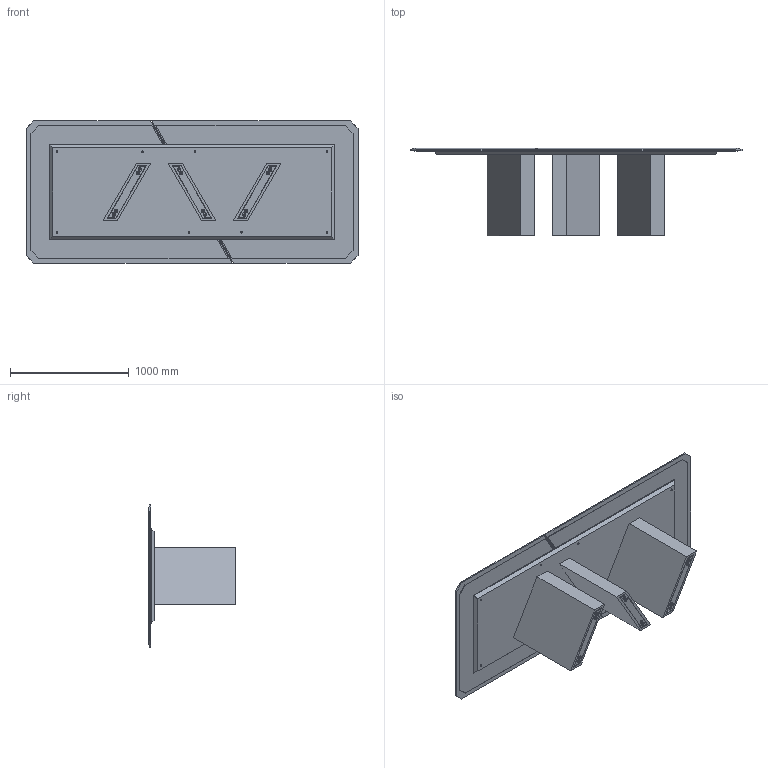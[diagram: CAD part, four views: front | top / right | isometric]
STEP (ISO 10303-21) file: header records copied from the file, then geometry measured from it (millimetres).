
FILE_DESCRIPTION (( 'STEP AP214' ), '1' );
FILE_NAME ('PlatiumClass_280 x120.STEP', '2026-05-05T09:30:54', ( '' ), ( '' ), 'SwSTEP 2.0', 'SolidWorks 2025', '' );
FILE_SCHEMA (( 'AUTOMOTIVE_DESIGN' ));
Length unit declared in the file: millimetre
Products named in the file (12): PlatinumClass_ASSIEME_GAMBA_UNICO_MARMO; PlatiumClass_DISTANZIALE_TAVOLO_Piatto_Metallo_Piano_120_xD; PlatiumClass_RIVESTIMENTO_UNICO_GAMBA_MARMO; PlatiumClass_PIANO_(260 280 300) x (120 e 140)_Buratti_TAVOLO_280 x 120 OPZ40; PlatiumClass_280 x120; PlatinumClass_Assieme_SOTTOPIANO_GOMMINA_PlatiumClass_280 x 120; PlatiumClass_GAMBA_h70; PlatiumClass_LAMIERA_Lamiera 280 x120 OPZ 40; PlatiumClass_GOMMINA_SOTTOPIANO_PlatiumClass_280 x 120_GOMMINA_SOTTOPIANO; PlatiumClass_SOTTOPIANO_SOTTOPIANO_280 x 120; PlatinumClass_tavolo_300 x 120_PlatiumClass_PIANO_280 x120 OPZ40; PlatiumClass_PIASTRINA_GAMBA
Assembly tree (18 placements, depth 3):
  PlatiumClass_280 x120
    PlatinumClass_Assieme_SOTTOPIANO_GOMMINA_PlatiumClass_280 x 120
      PlatiumClass_SOTTOPIANO_SOTTOPIANO_280 x 120
      PlatiumClass_GOMMINA_SOTTOPIANO_PlatiumClass_280 x 120_GOMMINA_SOTTOPIANO
    PlatinumClass_ASSIEME_GAMBA_UNICO_MARMO  x3
      PlatiumClass_GAMBA_h70
      PlatiumClass_RIVESTIMENTO_UNICO_GAMBA_MARMO
      PlatiumClass_PIASTRINA_GAMBA
    PlatinumClass_tavolo_300 x 120_PlatiumClass_PIANO_280 x120 OPZ40
      PlatiumClass_PIANO_(260 280 300) x (120 e 140)_Buratti_TAVOLO_280 x 120 OPZ40  x2
      PlatiumClass_DISTANZIALE_TAVOLO_Piatto_Metallo_Piano_120_xD
      PlatiumClass_LAMIERA_Lamiera 280 x120 OPZ 40  x2
Bounding box: 2800 x 736.5 x 1200 mm (x, y, z)
Volume: 239278890 mm3; surface area: 25164285.3 mm2
Topology: 25 solids, 25 shells, 612 faces, 1514 edges, 996 vertices
Faces by surface type: plane 340, cylinder 256, cone 16
Entity records: 9209 total; most frequent: CARTESIAN_POINT 1822, DIRECTION 1521, ORIENTED_EDGE 1390, EDGE_CURVE 695, AXIS2_PLACEMENT_3D 553, VERTEX_POINT 462, LINE 415, VECTOR 415
